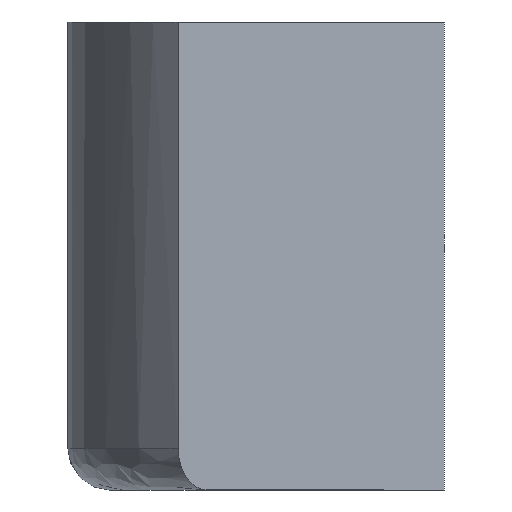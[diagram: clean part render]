
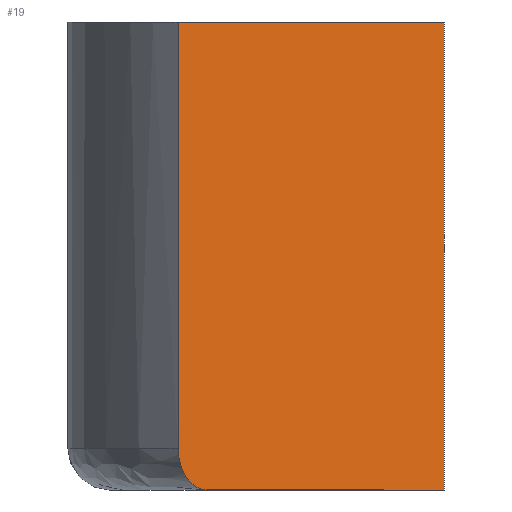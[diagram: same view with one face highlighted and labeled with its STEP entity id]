
A CAD part, left-side view. The second image highlights one B-rep face of the part: STEP entity #19.
In plain terms, the highlighted planar face has unit normal (-0.707, -0.707, 0).
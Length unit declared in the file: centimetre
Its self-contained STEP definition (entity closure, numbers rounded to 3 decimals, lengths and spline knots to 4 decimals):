
#19=ADVANCED_FACE('',(#37),#254,.T.);
#37=FACE_OUTER_BOUND('',#55,.T.);
#55=EDGE_LOOP('',(#83,#84,#85,#86,#87));
#83=ORIENTED_EDGE('',*,*,#149,.F.);
#84=ORIENTED_EDGE('',*,*,#151,.F.);
#85=ORIENTED_EDGE('',*,*,#153,.T.);
#86=ORIENTED_EDGE('',*,*,#150,.T.);
#87=ORIENTED_EDGE('',*,*,#159,.F.);
#149=EDGE_CURVE('',#234,#239,#203,.T.);
#150=EDGE_CURVE('',#235,#240,#204,.T.);
#151=EDGE_CURVE('',#236,#234,#205,.T.);
#153=EDGE_CURVE('',#236,#235,#189,.T.);
#159=EDGE_CURVE('',#239,#240,#208,.T.);
#189=(
BOUNDED_CURVE()
B_SPLINE_CURVE(2,(#717,#718,#719),.UNSPECIFIED.,.F.,.F.)
B_SPLINE_CURVE_WITH_KNOTS((3,3),(0.,1.5708),.UNSPECIFIED.)
CURVE()
GEOMETRIC_REPRESENTATION_ITEM()
RATIONAL_B_SPLINE_CURVE((1.,0.707,1.))
REPRESENTATION_ITEM('')
);
#203=B_SPLINE_CURVE_WITH_KNOTS('',1,(#708,#709),.UNSPECIFIED.,.F.,.F.,(2,
2),(-4.5,0.),.UNSPECIFIED.);
#204=B_SPLINE_CURVE_WITH_KNOTS('',1,(#710,#711),.UNSPECIFIED.,.F.,.F.,(2,
2),(-4.,0.),.UNSPECIFIED.);
#205=B_SPLINE_CURVE_WITH_KNOTS('',1,(#712,#713),.UNSPECIFIED.,.F.,.F.,(2,
2),(49.6127,52.5616),.UNSPECIFIED.);
#208=B_SPLINE_CURVE_WITH_KNOTS('',1,(#733,#734),.UNSPECIFIED.,.F.,.F.,(2,
2),(-44.2791,-39.1882),.UNSPECIFIED.);
#234=VERTEX_POINT('',#691);
#235=VERTEX_POINT('',#692);
#236=VERTEX_POINT('',#693);
#239=VERTEX_POINT('',#696);
#240=VERTEX_POINT('',#697);
#254=PLANE('',#291);
#291=AXIS2_PLACEMENT_3D('',#678,#303,$);
#303=DIRECTION('',(-0.707,-0.707,0.));
#678=CARTESIAN_POINT('',(17.5329,3.182,0.));
#691=CARTESIAN_POINT('',(17.5329,3.182,5.5983));
#692=CARTESIAN_POINT('',(17.8865,2.8284,0.));
#693=CARTESIAN_POINT('',(17.5329,3.182,0.5));
#696=CARTESIAN_POINT('',(20.7149,0.,5.5983));
#697=CARTESIAN_POINT('',(20.7149,0.,0.));
#708=CARTESIAN_POINT('',(17.5329,3.182,5.5983));
#709=CARTESIAN_POINT('',(20.7149,0.,5.5983));
#710=CARTESIAN_POINT('',(17.8865,2.8284,0.));
#711=CARTESIAN_POINT('',(20.7149,0.,0.));
#712=CARTESIAN_POINT('',(17.5329,3.182,0.5));
#713=CARTESIAN_POINT('',(17.5329,3.182,5.5983));
#717=CARTESIAN_POINT('',(17.5329,3.182,0.5));
#718=CARTESIAN_POINT('',(17.5329,3.182,0.));
#719=CARTESIAN_POINT('',(17.8865,2.8284,0.));
#733=CARTESIAN_POINT('',(20.7149,0.,5.5983));
#734=CARTESIAN_POINT('',(20.7149,0.,0.));
